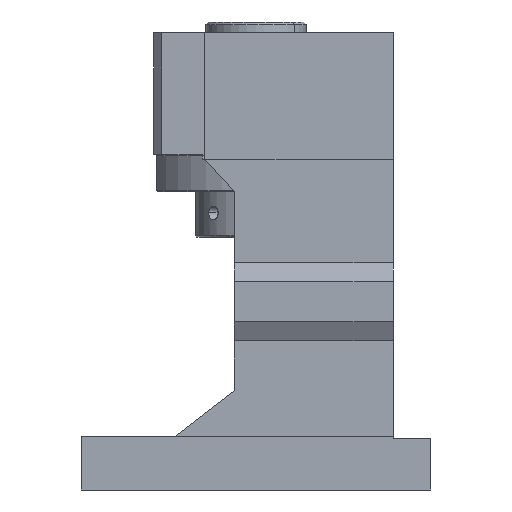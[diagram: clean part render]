
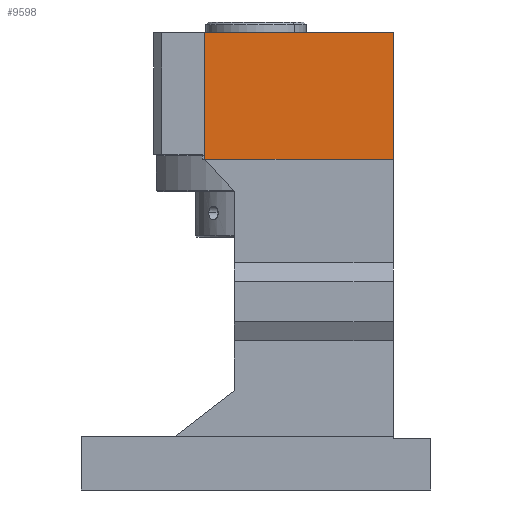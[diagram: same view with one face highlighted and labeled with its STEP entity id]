
A CAD part, left-side view. The second image highlights one B-rep face of the part: STEP entity #9598.
In plain terms, the highlighted planar face has unit normal (-1, 0, 0).
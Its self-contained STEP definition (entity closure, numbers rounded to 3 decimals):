
#114 = ORIENTED_EDGE ( 'NONE', *, *, #8322, .T. ) ;
#1243 = DIRECTION ( 'NONE',  ( 0., 0., -1. ) ) ;
#1700 = ORIENTED_EDGE ( 'NONE', *, *, #8321, .F. ) ;
#1940 = LINE ( 'NONE', #7545, #4292 ) ;
#2353 = PLANE ( 'NONE',  #2957 ) ;
#2957 = AXIS2_PLACEMENT_3D ( 'NONE', #5879, #9481, #4106 ) ;
#3330 = LINE ( 'NONE', #5519, #7850 ) ;
#3452 = CARTESIAN_POINT ( 'NONE',  ( -64., -51., 170. ) ) ;
#3534 = CARTESIAN_POINT ( 'NONE',  ( -64., -51., 123. ) ) ;
#3768 = CARTESIAN_POINT ( 'NONE',  ( -64., 19., 170. ) ) ;
#4106 = DIRECTION ( 'NONE',  ( 0., 0., -1. ) ) ;
#4292 = VECTOR ( 'NONE', #1243, 1000. ) ;
#5519 = CARTESIAN_POINT ( 'NONE',  ( -64., 19., 120. ) ) ;
#5581 = VERTEX_POINT ( 'NONE', #3768 ) ;
#5879 = CARTESIAN_POINT ( 'NONE',  ( -64., -65., 199.794 ) ) ;
#5973 = ORIENTED_EDGE ( 'NONE', *, *, #8239, .F. ) ;
#5981 = LINE ( 'NONE', #6253, #10451 ) ;
#6253 = CARTESIAN_POINT ( 'NONE',  ( -64., 39., 170. ) ) ;
#6652 = VERTEX_POINT ( 'NONE', #3534 ) ;
#7211 = DIRECTION ( 'NONE',  ( 0., -1., 0. ) ) ;
#7545 = CARTESIAN_POINT ( 'NONE',  ( -64., -51., 157. ) ) ;
#7850 = VECTOR ( 'NONE', #9150, 1000. ) ;
#8000 = FACE_OUTER_BOUND ( 'NONE', #11369, .T. ) ;
#8204 = EDGE_CURVE ( 'NONE', #5581, #9121, #5981, .T. ) ;
#8239 = EDGE_CURVE ( 'NONE', #9003, #5581, #3330, .T. ) ;
#8321 = EDGE_CURVE ( 'NONE', #9121, #6652, #1940, .T. ) ;
#8322 = EDGE_CURVE ( 'NONE', #9003, #6652, #11173, .T. ) ;
#9003 = VERTEX_POINT ( 'NONE', #10458 ) ;
#9073 = VECTOR ( 'NONE', #10196, 1000. ) ;
#9121 = VERTEX_POINT ( 'NONE', #3452 ) ;
#9150 = DIRECTION ( 'NONE',  ( 0., 0., 1. ) ) ;
#9312 = CARTESIAN_POINT ( 'NONE',  ( -64., 39., 123. ) ) ;
#9358 = ORIENTED_EDGE ( 'NONE', *, *, #8204, .F. ) ;
#9481 = DIRECTION ( 'NONE',  ( 1., 0., 0. ) ) ;
#9598 = ADVANCED_FACE ( 'NONE', ( #8000 ), #2353, .F. ) ;
#10196 = DIRECTION ( 'NONE',  ( 0., -1., 0. ) ) ;
#10451 = VECTOR ( 'NONE', #7211, 1000. ) ;
#10458 = CARTESIAN_POINT ( 'NONE',  ( -64., 19., 123. ) ) ;
#11173 = LINE ( 'NONE', #9312, #9073 ) ;
#11369 = EDGE_LOOP ( 'NONE', ( #114, #1700, #9358, #5973 ) ) ;
